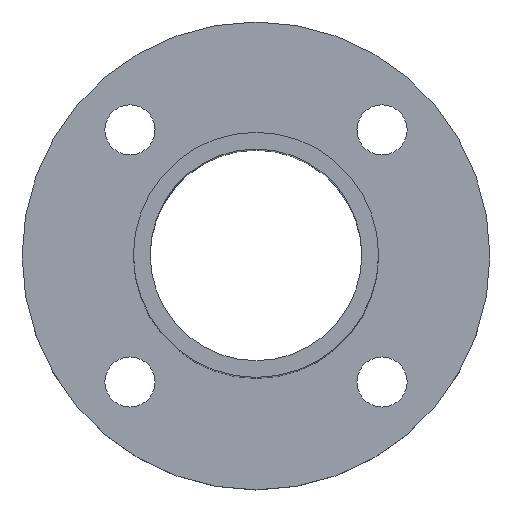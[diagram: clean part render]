
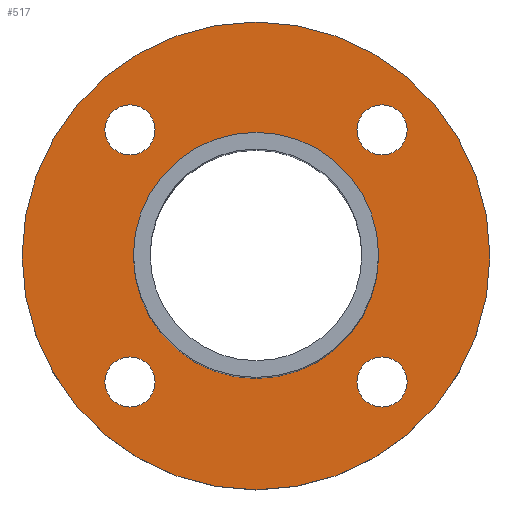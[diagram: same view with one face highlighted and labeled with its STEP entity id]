
A CAD part, top view. The second image highlights one B-rep face of the part: STEP entity #517.
In plain terms, the highlighted planar face has unit normal (0, 0, 1).
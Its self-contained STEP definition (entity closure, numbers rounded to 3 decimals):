
#1 = CARTESIAN_POINT ( 'NONE',  ( -11.314, 11.314, -24.5 ) ) ;
#7 = DIRECTION ( 'NONE',  ( 1., 0., 0. ) ) ;
#9 = FACE_OUTER_BOUND ( 'NONE', #839, .T. ) ;
#12 = EDGE_CURVE ( 'NONE', #21, #550, #906, .T. ) ;
#21 = VERTEX_POINT ( 'NONE', #256 ) ;
#61 = VERTEX_POINT ( 'NONE', #866 ) ;
#73 = VERTEX_POINT ( 'NONE', #511 ) ;
#84 = DIRECTION ( 'NONE',  ( 1., 0., 0. ) ) ;
#90 = AXIS2_PLACEMENT_3D ( 'NONE', #239, #161, #441 ) ;
#96 = EDGE_LOOP ( 'NONE', ( #702, #553 ) ) ;
#104 = CARTESIAN_POINT ( 'NONE',  ( 11.314, -11.314, -24.5 ) ) ;
#123 = CARTESIAN_POINT ( 'NONE',  ( 13.564, 11.314, -24.5 ) ) ;
#134 = CIRCLE ( 'NONE', #248, 11. ) ;
#140 = EDGE_CURVE ( 'NONE', #550, #21, #799, .T. ) ;
#141 = DIRECTION ( 'NONE',  ( 0., 0., 1. ) ) ;
#159 = DIRECTION ( 'NONE',  ( 0., 0., 1. ) ) ;
#161 = DIRECTION ( 'NONE',  ( 0., 0., 1. ) ) ;
#163 = CARTESIAN_POINT ( 'NONE',  ( 0., 0., -24.5 ) ) ;
#174 = CARTESIAN_POINT ( 'NONE',  ( 13.564, -11.314, -24.5 ) ) ;
#178 = DIRECTION ( 'NONE',  ( 1., 0., 0. ) ) ;
#185 = VERTEX_POINT ( 'NONE', #804 ) ;
#194 = EDGE_LOOP ( 'NONE', ( #216, #592 ) ) ;
#198 = ORIENTED_EDGE ( 'NONE', *, *, #140, .F. ) ;
#201 = EDGE_LOOP ( 'NONE', ( #281, #760 ) ) ;
#203 = EDGE_LOOP ( 'NONE', ( #851, #211 ) ) ;
#211 = ORIENTED_EDGE ( 'NONE', *, *, #503, .F. ) ;
#212 = EDGE_CURVE ( 'NONE', #185, #907, #508, .T. ) ;
#214 = CIRCLE ( 'NONE', #801, 11. ) ;
#216 = ORIENTED_EDGE ( 'NONE', *, *, #554, .F. ) ;
#224 = CIRCLE ( 'NONE', #291, 2.25 ) ;
#232 = FACE_BOUND ( 'NONE', #630, .T. ) ;
#239 = CARTESIAN_POINT ( 'NONE',  ( -11.314, -11.314, -24.5 ) ) ;
#242 = DIRECTION ( 'NONE',  ( 0., 0., 1. ) ) ;
#243 = CARTESIAN_POINT ( 'NONE',  ( 11.314, -11.314, -24.5 ) ) ;
#246 = AXIS2_PLACEMENT_3D ( 'NONE', #260, #267, #615 ) ;
#248 = AXIS2_PLACEMENT_3D ( 'NONE', #578, #582, #7 ) ;
#256 = CARTESIAN_POINT ( 'NONE',  ( -9.064, -11.314, -24.5 ) ) ;
#260 = CARTESIAN_POINT ( 'NONE',  ( -11.314, -11.314, -24.5 ) ) ;
#261 = CARTESIAN_POINT ( 'NONE',  ( 0., 0., -24.5 ) ) ;
#266 = CIRCLE ( 'NONE', #617, 21. ) ;
#267 = DIRECTION ( 'NONE',  ( 0., 0., 1. ) ) ;
#270 = CARTESIAN_POINT ( 'NONE',  ( 11.314, 11.314, -24.5 ) ) ;
#281 = ORIENTED_EDGE ( 'NONE', *, *, #425, .F. ) ;
#287 = VERTEX_POINT ( 'NONE', #608 ) ;
#291 = AXIS2_PLACEMENT_3D ( 'NONE', #243, #526, #807 ) ;
#297 = CARTESIAN_POINT ( 'NONE',  ( -21., 0., -24.5 ) ) ;
#300 = FACE_BOUND ( 'NONE', #96, .T. ) ;
#303 = PLANE ( 'NONE',  #409 ) ;
#308 = DIRECTION ( 'NONE',  ( 0., 0., 1. ) ) ;
#319 = CIRCLE ( 'NONE', #784, 2.25 ) ;
#333 = EDGE_CURVE ( 'NONE', #815, #287, #672, .T. ) ;
#337 = VERTEX_POINT ( 'NONE', #707 ) ;
#347 = ORIENTED_EDGE ( 'NONE', *, *, #771, .T. ) ;
#349 = CIRCLE ( 'NONE', #861, 21. ) ;
#361 = FACE_BOUND ( 'NONE', #194, .T. ) ;
#368 = CARTESIAN_POINT ( 'NONE',  ( 0., 0., -24.5 ) ) ;
#369 = DIRECTION ( 'NONE',  ( 1., 0., 0. ) ) ;
#384 = CARTESIAN_POINT ( 'NONE',  ( 0., 0., -24.5 ) ) ;
#399 = DIRECTION ( 'NONE',  ( 1., 0., 0. ) ) ;
#409 = AXIS2_PLACEMENT_3D ( 'NONE', #368, #242, #431 ) ;
#422 = DIRECTION ( 'NONE',  ( 1., 0., 0. ) ) ;
#425 = EDGE_CURVE ( 'NONE', #287, #815, #559, .T. ) ;
#431 = DIRECTION ( 'NONE',  ( 1., 0., 0. ) ) ;
#441 = DIRECTION ( 'NONE',  ( 1., 0., 0. ) ) ;
#492 = EDGE_CURVE ( 'NONE', #61, #837, #224, .T. ) ;
#493 = EDGE_CURVE ( 'NONE', #837, #61, #643, .T. ) ;
#503 = EDGE_CURVE ( 'NONE', #907, #185, #319, .T. ) ;
#508 = CIRCLE ( 'NONE', #525, 2.25 ) ;
#511 = CARTESIAN_POINT ( 'NONE',  ( 11., 0., -24.5 ) ) ;
#516 = EDGE_CURVE ( 'NONE', #693, #73, #214, .T. ) ;
#517 = ADVANCED_FACE ( 'NONE', ( #867, #232, #300, #858, #361, #9 ), #303, .T. ) ;
#523 = CARTESIAN_POINT ( 'NONE',  ( -13.564, -11.314, -24.5 ) ) ;
#525 = AXIS2_PLACEMENT_3D ( 'NONE', #270, #808, #178 ) ;
#526 = DIRECTION ( 'NONE',  ( 0., 0., 1. ) ) ;
#540 = DIRECTION ( 'NONE',  ( 0., 0., 1. ) ) ;
#545 = VERTEX_POINT ( 'NONE', #297 ) ;
#548 = CARTESIAN_POINT ( 'NONE',  ( -11., 0., -24.5 ) ) ;
#550 = VERTEX_POINT ( 'NONE', #523 ) ;
#553 = ORIENTED_EDGE ( 'NONE', *, *, #493, .F. ) ;
#554 = EDGE_CURVE ( 'NONE', #73, #693, #134, .T. ) ;
#559 = CIRCLE ( 'NONE', #714, 2.25 ) ;
#578 = CARTESIAN_POINT ( 'NONE',  ( 0., 0., -24.5 ) ) ;
#582 = DIRECTION ( 'NONE',  ( 0., 0., 1. ) ) ;
#585 = DIRECTION ( 'NONE',  ( 0., 0., 1. ) ) ;
#587 = CARTESIAN_POINT ( 'NONE',  ( 11.314, 11.314, -24.5 ) ) ;
#592 = ORIENTED_EDGE ( 'NONE', *, *, #516, .F. ) ;
#608 = CARTESIAN_POINT ( 'NONE',  ( -13.564, 11.314, -24.5 ) ) ;
#615 = DIRECTION ( 'NONE',  ( 1., 0., 0. ) ) ;
#617 = AXIS2_PLACEMENT_3D ( 'NONE', #261, #540, #399 ) ;
#630 = EDGE_LOOP ( 'NONE', ( #198, #852 ) ) ;
#643 = CIRCLE ( 'NONE', #744, 2.25 ) ;
#645 = DIRECTION ( 'NONE',  ( 1., 0., 0. ) ) ;
#672 = CIRCLE ( 'NONE', #780, 2.25 ) ;
#693 = VERTEX_POINT ( 'NONE', #548 ) ;
#702 = ORIENTED_EDGE ( 'NONE', *, *, #492, .F. ) ;
#706 = EDGE_CURVE ( 'NONE', #545, #337, #349, .T. ) ;
#707 = CARTESIAN_POINT ( 'NONE',  ( 21., 0., -24.5 ) ) ;
#714 = AXIS2_PLACEMENT_3D ( 'NONE', #733, #793, #369 ) ;
#729 = CARTESIAN_POINT ( 'NONE',  ( -9.064, 11.314, -24.5 ) ) ;
#733 = CARTESIAN_POINT ( 'NONE',  ( -11.314, 11.314, -24.5 ) ) ;
#744 = AXIS2_PLACEMENT_3D ( 'NONE', #104, #585, #645 ) ;
#760 = ORIENTED_EDGE ( 'NONE', *, *, #333, .F. ) ;
#771 = EDGE_CURVE ( 'NONE', #337, #545, #266, .T. ) ;
#780 = AXIS2_PLACEMENT_3D ( 'NONE', #1, #141, #422 ) ;
#784 = AXIS2_PLACEMENT_3D ( 'NONE', #587, #159, #785 ) ;
#785 = DIRECTION ( 'NONE',  ( 1., 0., 0. ) ) ;
#793 = DIRECTION ( 'NONE',  ( 0., 0., 1. ) ) ;
#799 = CIRCLE ( 'NONE', #90, 2.25 ) ;
#801 = AXIS2_PLACEMENT_3D ( 'NONE', #163, #308, #84 ) ;
#804 = CARTESIAN_POINT ( 'NONE',  ( 9.064, 11.314, -24.5 ) ) ;
#807 = DIRECTION ( 'NONE',  ( 1., 0., 0. ) ) ;
#808 = DIRECTION ( 'NONE',  ( 0., 0., 1. ) ) ;
#815 = VERTEX_POINT ( 'NONE', #729 ) ;
#817 = DIRECTION ( 'NONE',  ( 1., 0., 0. ) ) ;
#837 = VERTEX_POINT ( 'NONE', #174 ) ;
#839 = EDGE_LOOP ( 'NONE', ( #883, #347 ) ) ;
#851 = ORIENTED_EDGE ( 'NONE', *, *, #212, .F. ) ;
#852 = ORIENTED_EDGE ( 'NONE', *, *, #12, .F. ) ;
#858 = FACE_BOUND ( 'NONE', #203, .T. ) ;
#861 = AXIS2_PLACEMENT_3D ( 'NONE', #384, #884, #817 ) ;
#866 = CARTESIAN_POINT ( 'NONE',  ( 9.064, -11.314, -24.5 ) ) ;
#867 = FACE_BOUND ( 'NONE', #201, .T. ) ;
#883 = ORIENTED_EDGE ( 'NONE', *, *, #706, .T. ) ;
#884 = DIRECTION ( 'NONE',  ( 0., 0., 1. ) ) ;
#906 = CIRCLE ( 'NONE', #246, 2.25 ) ;
#907 = VERTEX_POINT ( 'NONE', #123 ) ;
